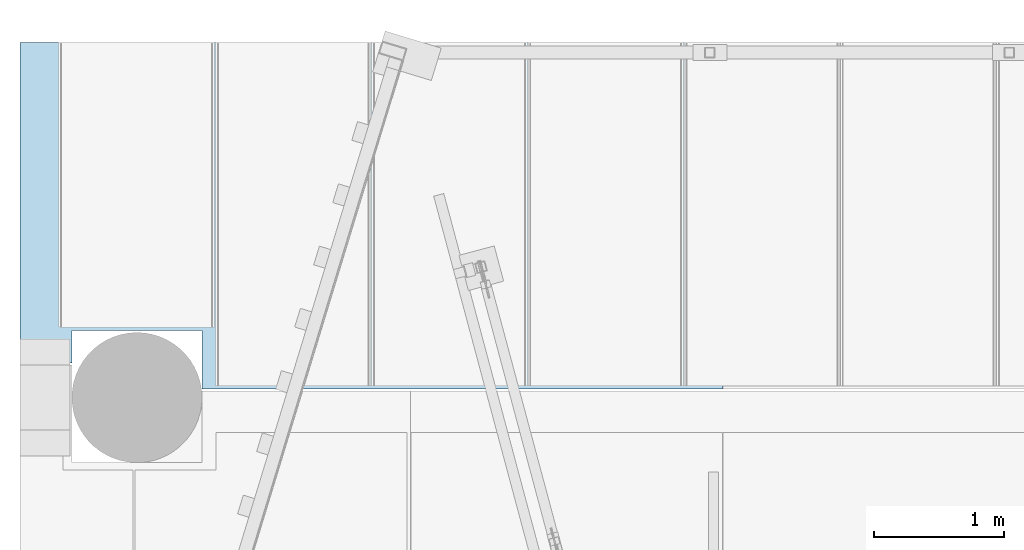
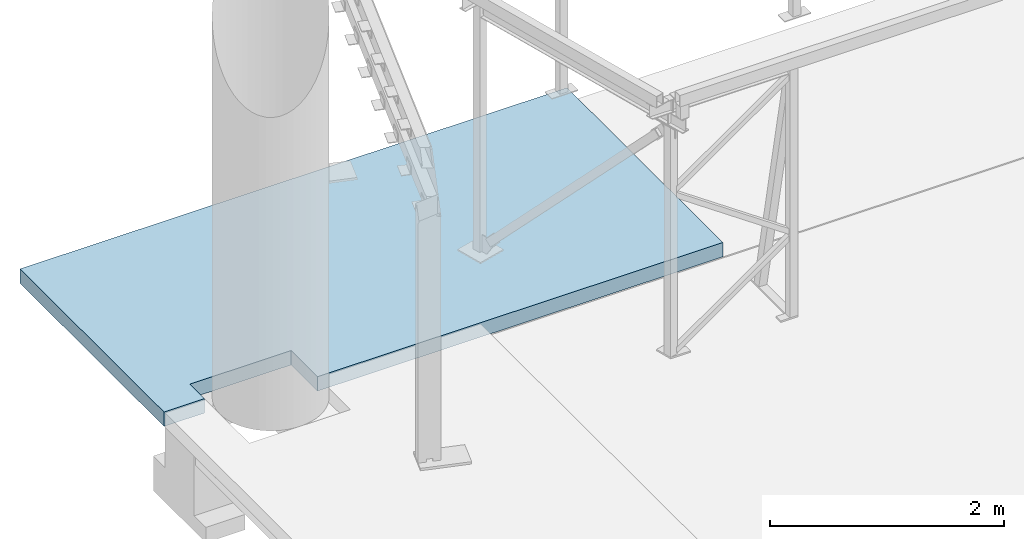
# One storey, part 16 of 19: 1 slab.
"""IFC2X3 building model written with IfcOpenShell, lengths in millimetres."""

from ifc_helpers import new_model, entity, si_unit, converted_unit, derived_unit, direction, frame, origin_with_axes, place, context, subcontext, project, spatial, faceted_brep, type_object, element, save


model = new_model("IFC2X3")

# Units and contexts
model_context = context("Model", 3, precision=0.01, world=frame((0.0, 4.29681676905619e-09, 0.0)), true_north=direction((4.01073788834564e-13, 1.0)))
plan_context = context("Plan", 3, precision=0.01, world=frame((0.0, 4.29681676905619e-09, 0.0)), true_north=direction((4.01073788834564e-13, 1.0)))
body_context = subcontext(model_context, "Body", "Model", "MODEL_VIEW")
ifc_project = project(units=[converted_unit("PLANEANGLEUNIT", "DEGREE", entity("IfcPositiveLengthMeasure", 0.0174532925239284), si_unit("PLANEANGLEUNIT", "RADIAN"), dimensions=[0, 0, 0, 0, 0, 0, 0]), si_unit("AREAUNIT", "SQUARE_METRE"), si_unit("LENGTHUNIT", "METRE", prefix="MILLI"), si_unit("MASSUNIT", "GRAM", prefix="KILO"), si_unit("POWERUNIT", "WATT"), si_unit("PRESSUREUNIT", "PASCAL", prefix="KILO"), si_unit("FORCEUNIT", "NEWTON", prefix="KILO"), si_unit("ELECTRICVOLTAGEUNIT", "VOLT"), si_unit("ELECTRICCURRENTUNIT", "AMPERE"), si_unit("THERMODYNAMICTEMPERATUREUNIT", "DEGREE_CELSIUS"), si_unit("TIMEUNIT", "SECOND"), si_unit("VOLUMEUNIT", "CUBIC_METRE"), derived_unit("LINEARVELOCITYUNIT", [(si_unit("LENGTHUNIT", "METRE"), 1), (si_unit("TIMEUNIT", "SECOND"), -1)]), derived_unit("VOLUMETRICFLOWRATEUNIT", [(si_unit("VOLUMEUNIT", "CUBIC_METRE"), 1), (si_unit("TIMEUNIT", "SECOND"), -1)]), derived_unit("THERMALTRANSMITTANCEUNIT", [(si_unit("POWERUNIT", "WATT"), 1), (si_unit("THERMODYNAMICTEMPERATUREUNIT", "KELVIN"), -1), (si_unit("AREAUNIT", "SQUARE_METRE"), -1)]), derived_unit("SOUNDPRESSUREUNIT", [(si_unit("PRESSUREUNIT", "PASCAL"), 1)])], contexts=[model_context, plan_context])

# Site, building, storey
site_placement = place(None, frame((0.0, -4.29681676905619e-09, 0.0), z_axis=(0.0, 0.0, 1.0), x_axis=(1.0, 0.0, 0.0)))
site = spatial("IfcSite", under=ifc_project, at=site_placement, Name="Gardermoen", CompositionType="ELEMENT")
building_placement = place(site_placement, frame((0.0, 4.29681676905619e-09, 0.0), z_axis=(0.0, 0.0, 1.0), x_axis=(1.0, 0.0, 0.0)))
building = spatial("IfcBuilding", under=site, at=building_placement, Name="TI", CompositionType="ELEMENT")
storey_placement = place(building_placement, origin_with_axes())
storey = spatial("IfcBuildingStorey", under=building, at=storey_placement, Name="F", CompositionType="ELEMENT", Elevation=0.0)

# Slab
slab_type = type_object("IfcSlabType", Name="150*12435", PredefinedType="NOTDEFINED")
slab_placement = place(storey_placement, frame((563102.822912, 575765.0, 210755.0), z_axis=(0.0, 1.0, 0.0), x_axis=(1.0, 0.0, 0.0)))
element("IfcSlab", 1, at=slab_placement, inside=storey, type_object=slab_type, Name="PÅSTØP", ObjectType="150*12435", PredefinedType="FLOOR", context=body_context, shape_type="Brep", body=[
    faceted_brep([(18998.8968224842, 75.0, -8.32335219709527e-07), (18998.8968224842, -75.0, -8.30896758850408e-07), (19397.1972656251, -75.0, -8.48318450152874e-07), (19397.1972656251, 75.0, -8.48318450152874e-07), (19397.1972656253, 75.0, 250.001937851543), (19397.1972656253, -75.0, 250.001937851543), (20397.1972656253, 75.0, 250.002044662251), (20397.1972656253, -75.0, 250.002044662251), (20397.197265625, 75.0, -200.000000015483), (20397.197265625, -75.0, -200.000000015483), (24397.171875, 75.0, -199.997589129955), (24397.171875, -75.0, -199.997589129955), (24397.1714568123, -75.0, 2462.49999999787), (24397.1714568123, 75.0, 2462.49999999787), (18998.8968224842, -75.0, 2462.49999999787), (18998.8968224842, 74.9999999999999, 2462.49999999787)], [[[0, 1, 2, 3]], [[4, 3, 2, 5]], [[6, 4, 5, 7]], [[8, 6, 7, 9]], [[10, 8, 9, 11]], [[12, 13, 10, 11]], [[1, 14, 12, 11, 9, 7, 5, 2]], [[13, 15, 0, 3, 4, 6, 8, 10]], [[15, 13, 12, 14]], [[14, 1, 0, 15]]], orient=[[False], [False], [False], [False], [False], [False], [False], [False], [False], [False]]),
])

save(model, "model.ifc")
